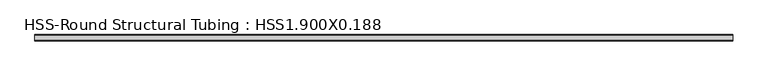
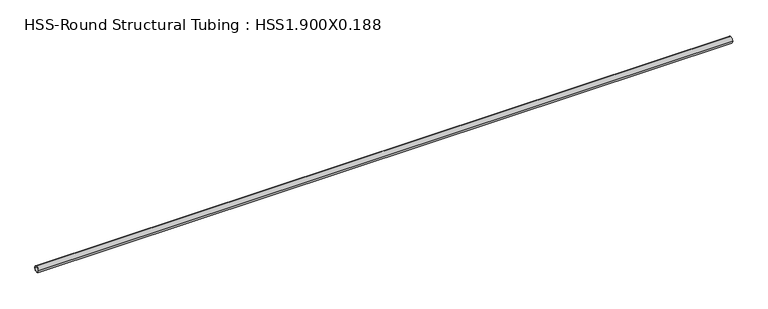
"""IFC4 building model written with IfcOpenShell, lengths in millimetres: member geometry, HSS-Round Structural Tubing : HSS1.900X0.188."""

from ifc_helpers import new_model, si_unit, point, frame, origin, origin_2d, place, context, project, spatial, circle_curve, trimmed, segment, composite_curve, outline, extrude, source, transform, mapped, element, save


def hss_round_structural_tubing_hss1_900x0_188_a00ff317(model_context):
    return source(origin(), model_context, "Body", "SweptSolid", [
        extrude(outline(composite_curve([segment(trimmed(circle_curve(origin_2d(), 24.13), [point((-24.13, 0.0))], [point((24.13, 0.0))], False, "CARTESIAN"), True, "CONTINUOUS"), segment(trimmed(circle_curve(origin_2d(), 24.13), [point((24.13, 0.0))], [point((-24.13, 0.0))], False, "CARTESIAN"), True, "CONTINUOUS")], self_intersect=False), holes=[composite_curve([segment(trimmed(circle_curve(origin_2d(), 19.7104), [point((19.7104, 0.0))], [point((-19.7104, 0.0))], True, "CARTESIAN"), True, "CONTINUOUS"), segment(trimmed(circle_curve(origin_2d(), 19.7104), [point((-19.7104, 0.0))], [point((19.7104, 0.0))], True, "CARTESIAN"), True, "CONTINUOUS")], self_intersect=False)]), frame((-2686.9909588, 0.0, 0.0), z_axis=(1.0, 0.0, 0.0), x_axis=(0.0, 1.0, 0.0)), (0.0, 0.0, 1.0), 5419.7697281),
    ])


if __name__ == "__main__":
    model = new_model("IFC4")
    model_context = context("Model", 3, world=origin())
    ifc_project = project(units=[si_unit("LENGTHUNIT", "METRE", prefix="MILLI")], contexts=[model_context])
    site = spatial("IfcSite", under=ifc_project)
    building = spatial("IfcBuilding", under=site)
    placement = place(None, origin())
    hss_round_structural_tubing_hss1_900x0_188_shape = hss_round_structural_tubing_hss1_900x0_188_a00ff317(model_context)
    element("IfcMember", 1, ObjectType="HSS-Round Structural Tubing : HSS1.900X0.188", at=placement, inside=building, context=model_context, shape_type="MappedRepresentation", body=[
        mapped(hss_round_structural_tubing_hss1_900x0_188_shape, transform((0.0, 0.0, 0.0), x_axis=(1.0, 0.0, 0.0), y_axis=(0.0, 1.0, 0.0), z_axis=(0.0, 0.0, 1.0))),
    ])
    save(model, "model.ifc")
